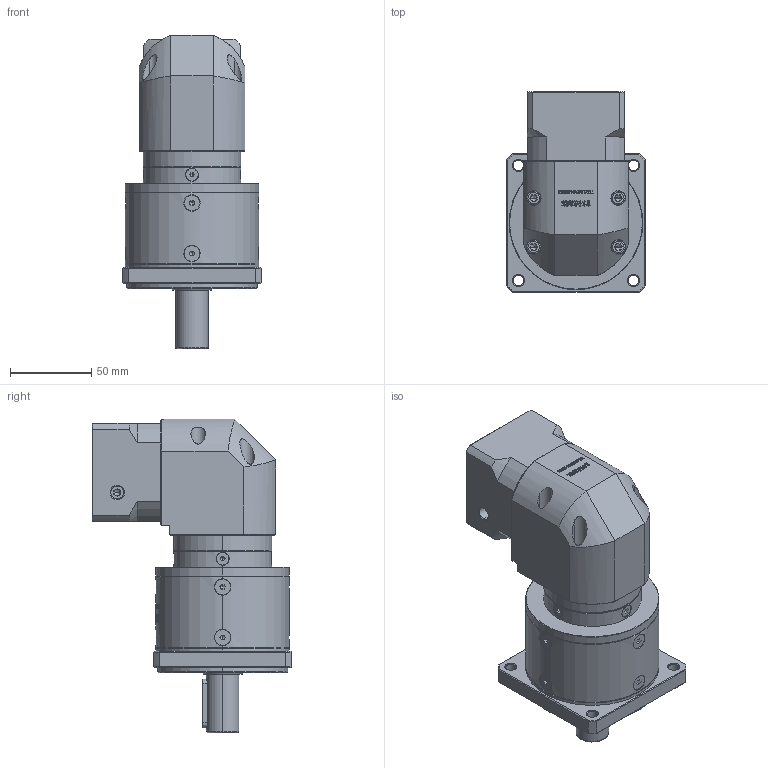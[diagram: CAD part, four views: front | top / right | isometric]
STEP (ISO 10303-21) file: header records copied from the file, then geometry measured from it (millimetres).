
FILE_DESCRIPTION (( 'STEP AP214' ), '1' );
FILE_NAME ('ZFR80-D20-L2-6.35-38.1-47.14x47.14-M4.step', '2022-05-08T14:49:51', ( '' ), ( 'Microsoft' ), 'SwSTEP 2.0', 'SolidWorks 2016', '' );
FILE_SCHEMA (( 'AUTOMOTIVE_DESIGN' ));
Length unit declared in the file: millimetre
Products named in the file (1): ZFR80-D20-L2-6.35-38.1-47.14x47.14-M4
Bounding box: 85 x 122.7 x 192.5 mm (x, y, z)
Volume: 790268.8 mm3; surface area: 103980.4 mm2
Topology: 17 solids, 18 shells, 3074 faces, 8166 edges, 5250 vertices
Faces by surface type: plane 1602, bspline 620, cylinder 462, cone 382, torus 8
Entity records: 163585 total; most frequent: CARTESIAN_POINT 58802, ORIENTED_EDGE 16240, DIRECTION 12334, EDGE_CURVE 8120, VERTEX_POINT 5250, LINE 4972, VECTOR 4972, AXIS2_PLACEMENT_3D 3681
